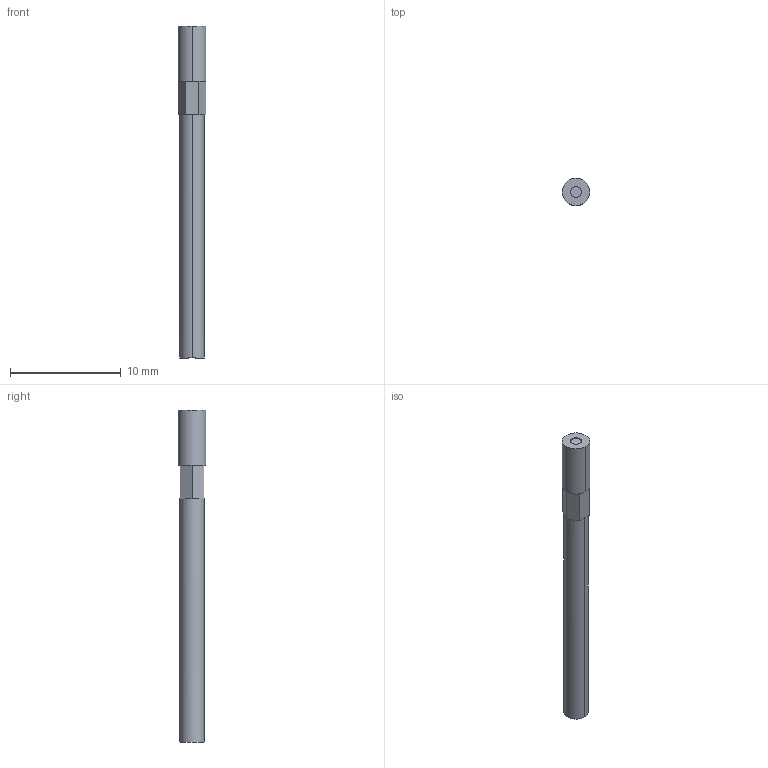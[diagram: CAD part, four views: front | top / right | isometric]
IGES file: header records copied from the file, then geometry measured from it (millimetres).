
Start section: SolidWorks IGES FILE using analytic representation for surfaces
Global section: file name: \\intra-srv04\開発データ\CAD_Data\CAD委員会\3D電子ｶﾀﾛｸﾞ\製品カタログ（新）\0_IGES\FT-WS8.IGS,41HSolidWorks 2004; native system: by SolidWorks Corporation; preprocessor: Version 5.3; author: mf1158; date: 050908.131549; units: millimetre
Bounding box: 2.5 x 2.5 x 30 mm (x, y, z)
Volume: 120.3 mm3; surface area: 224 mm2
Topology: 1 solids, 1 shells, 33 faces, 66 edges, 36 vertices
Faces by surface type: plane 27, revolution 6
